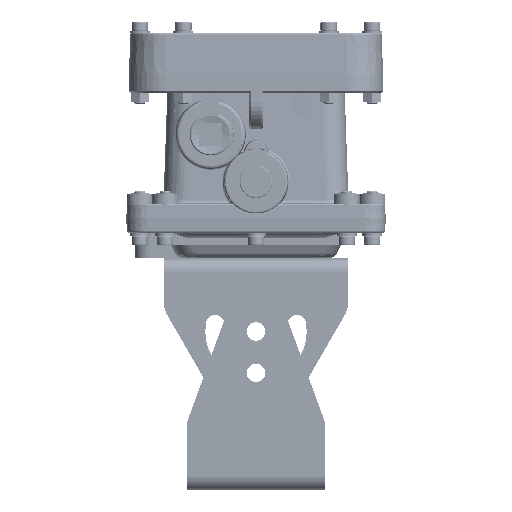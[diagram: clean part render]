
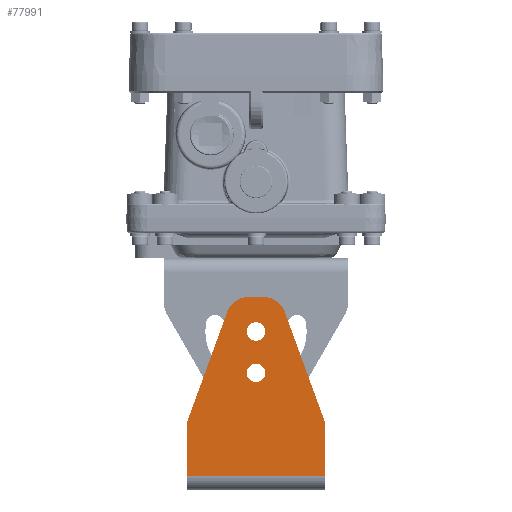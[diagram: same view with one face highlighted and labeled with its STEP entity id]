
A CAD part, left-side view. The second image highlights one B-rep face of the part: STEP entity #77991.
In plain terms, the highlighted planar face has unit normal (-1, 0, 0).
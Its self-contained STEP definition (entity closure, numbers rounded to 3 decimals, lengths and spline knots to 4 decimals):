
#903 = AXIS2_PLACEMENT_3D ( 'NONE', #22704, #116218, #104714 ) ;
#997 = ORIENTED_EDGE ( 'NONE', *, *, #6484, .T. ) ;
#2646 = CARTESIAN_POINT ( 'NONE',  ( -5.8875, 4., -1.5 ) ) ;
#5719 = DIRECTION ( 'NONE',  ( 1., 0., 0. ) ) ;
#6310 = CIRCLE ( 'NONE', #57761, 0.5 ) ;
#6484 = EDGE_CURVE ( 'NONE', #94970, #90161, #90772, .T. ) ;
#6778 = ORIENTED_EDGE ( 'NONE', *, *, #67262, .T. ) ;
#7060 = CIRCLE ( 'NONE', #136921, 0.2 ) ;
#7193 = LINE ( 'NONE', #69088, #87952 ) ;
#8302 = ORIENTED_EDGE ( 'NONE', *, *, #101985, .T. ) ;
#11052 = CARTESIAN_POINT ( 'NONE',  ( -5.8875, 3.25, -0.2 ) ) ;
#12844 = DIRECTION ( 'NONE',  ( -1., 0., 0. ) ) ;
#13579 = CARTESIAN_POINT ( 'NONE',  ( -5.8875, 1.1817, 1. ) ) ;
#14702 = CARTESIAN_POINT ( 'NONE',  ( -5.8875, 1.2698, -1.5 ) ) ;
#14851 = VERTEX_POINT ( 'NONE', #47326 ) ;
#17229 = EDGE_CURVE ( 'NONE', #60779, #50627, #7060, .T. ) ;
#17262 = CARTESIAN_POINT ( 'NONE',  ( -5.8875, 3.25, 0. ) ) ;
#18066 = EDGE_CURVE ( 'NONE', #82313, #113037, #90210, .T. ) ;
#19301 = VECTOR ( 'NONE', #126617, 39.3701 ) ;
#20042 = LINE ( 'NONE', #65284, #19301 ) ;
#20335 = DIRECTION ( 'NONE',  ( 0., -1., 0. ) ) ;
#20889 = CARTESIAN_POINT ( 'NONE',  ( -5.8875, 2.35, 0. ) ) ;
#22704 = CARTESIAN_POINT ( 'NONE',  ( -5.8875, 2.35, 0. ) ) ;
#23680 = VECTOR ( 'NONE', #130754, 39.3701 ) ;
#24168 = FACE_BOUND ( 'NONE', #100458, .T. ) ;
#24301 = CARTESIAN_POINT ( 'NONE',  ( -5.8875, 3.5, 0.1562 ) ) ;
#25454 = LINE ( 'NONE', #107449, #150981 ) ;
#26224 = EDGE_CURVE ( 'NONE', #35387, #14851, #6310, .T. ) ;
#28459 = DIRECTION ( 'NONE',  ( 0., -0.94, -0.342 ) ) ;
#29532 = EDGE_CURVE ( 'NONE', #90161, #82313, #7193, .T. ) ;
#29960 = AXIS2_PLACEMENT_3D ( 'NONE', #13579, #12844, #45797 ) ;
#31214 = ORIENTED_EDGE ( 'NONE', *, *, #29532, .T. ) ;
#32393 = CARTESIAN_POINT ( 'NONE',  ( -5.8875, 0.125, 1.5 ) ) ;
#35387 = VERTEX_POINT ( 'NONE', #78842 ) ;
#37111 = CIRCLE ( 'NONE', #39625, 0.2 ) ;
#39625 = AXIS2_PLACEMENT_3D ( 'NONE', #17262, #5719, #113061 ) ;
#41114 = ORIENTED_EDGE ( 'NONE', *, *, #54872, .T. ) ;
#42328 = CARTESIAN_POINT ( 'NONE',  ( -5.8875, 4., 0.1562 ) ) ;
#44547 = DIRECTION ( 'NONE',  ( 0., 0., -1. ) ) ;
#44826 = CARTESIAN_POINT ( 'NONE',  ( -5.8875, 3.671, -0.626 ) ) ;
#44858 = DIRECTION ( 'NONE',  ( 0., -1., 0. ) ) ;
#45797 = DIRECTION ( 'NONE',  ( 0., 1., 0. ) ) ;
#46385 = DIRECTION ( 'NONE',  ( 1., 0., 0. ) ) ;
#46865 = EDGE_LOOP ( 'NONE', ( #41114, #6778 ) ) ;
#47155 = FACE_OUTER_BOUND ( 'NONE', #69746, .T. ) ;
#47326 = CARTESIAN_POINT ( 'NONE',  ( -5.8875, 1.1817, -1.5 ) ) ;
#47506 = CARTESIAN_POINT ( 'NONE',  ( -5.8875, 3.25, 0.2 ) ) ;
#47620 = CARTESIAN_POINT ( 'NONE',  ( -5.8875, 0.125, 1.5 ) ) ;
#50541 = CARTESIAN_POINT ( 'NONE',  ( -5.8875, 3.25, 0. ) ) ;
#50627 = VERTEX_POINT ( 'NONE', #47506 ) ;
#50671 = VERTEX_POINT ( 'NONE', #108781 ) ;
#50940 = EDGE_CURVE ( 'NONE', #102769, #99332, #74099, .T. ) ;
#51062 = DIRECTION ( 'NONE',  ( -1., 0., 0. ) ) ;
#53390 = ORIENTED_EDGE ( 'NONE', *, *, #57998, .F. ) ;
#54872 = EDGE_CURVE ( 'NONE', #50671, #144304, #106202, .T. ) ;
#55234 = ORIENTED_EDGE ( 'NONE', *, *, #123890, .T. ) ;
#57099 = PLANE ( 'NONE',  #57522 ) ;
#57151 = DIRECTION ( 'NONE',  ( -1., 0., 0. ) ) ;
#57522 = AXIS2_PLACEMENT_3D ( 'NONE', #57864, #46385, #44858 ) ;
#57761 = AXIS2_PLACEMENT_3D ( 'NONE', #120904, #51062, #123926 ) ;
#57864 = CARTESIAN_POINT ( 'NONE',  ( -5.8875, 4., 1.5 ) ) ;
#57998 = EDGE_CURVE ( 'NONE', #102769, #109481, #25454, .T. ) ;
#60779 = VERTEX_POINT ( 'NONE', #11052 ) ;
#60930 = CARTESIAN_POINT ( 'NONE',  ( -5.8875, 1.3527, 1.4698 ) ) ;
#65284 = CARTESIAN_POINT ( 'NONE',  ( -5.8875, 4., 0.5063 ) ) ;
#67262 = EDGE_CURVE ( 'NONE', #144304, #50671, #84884, .T. ) ;
#67439 = CARTESIAN_POINT ( 'NONE',  ( -5.8875, 3.671, 0.626 ) ) ;
#68707 = DIRECTION ( 'NONE',  ( 0., 1., 0. ) ) ;
#68800 = DIRECTION ( 'NONE',  ( -1., 0., 0. ) ) ;
#69088 = CARTESIAN_POINT ( 'NONE',  ( -5.8875, 4., 1.5 ) ) ;
#69746 = EDGE_LOOP ( 'NONE', ( #53390, #101554, #8302, #997, #31214, #89342, #55234, #73385, #91762, #84820 ) ) ;
#71106 = DIRECTION ( 'NONE',  ( 0., 1., 0. ) ) ;
#72952 = LINE ( 'NONE', #47620, #138133 ) ;
#73385 = ORIENTED_EDGE ( 'NONE', *, *, #26224, .T. ) ;
#74099 = CIRCLE ( 'NONE', #29960, 0.5 ) ;
#74743 = LINE ( 'NONE', #2646, #23680 ) ;
#77991 = ADVANCED_FACE ( 'NONE', ( #24168, #91684, #47155 ), #57099, .F. ) ;
#78842 = CARTESIAN_POINT ( 'NONE',  ( -5.8875, 1.3527, -1.4698 ) ) ;
#82313 = VERTEX_POINT ( 'NONE', #127589 ) ;
#84484 = LINE ( 'NONE', #14702, #109952 ) ;
#84820 = ORIENTED_EDGE ( 'NONE', *, *, #111825, .F. ) ;
#84884 = CIRCLE ( 'NONE', #109233, 0.2 ) ;
#87952 = VECTOR ( 'NONE', #44547, 39.3701 ) ;
#89342 = ORIENTED_EDGE ( 'NONE', *, *, #18066, .T. ) ;
#90161 = VERTEX_POINT ( 'NONE', #42328 ) ;
#90210 = CIRCLE ( 'NONE', #148953, 0.5 ) ;
#90772 = CIRCLE ( 'NONE', #144597, 0.5 ) ;
#91684 = FACE_BOUND ( 'NONE', #46865, .T. ) ;
#91762 = ORIENTED_EDGE ( 'NONE', *, *, #99358, .T. ) ;
#94442 = DIRECTION ( 'NONE',  ( 0., 0., -1. ) ) ;
#94970 = VERTEX_POINT ( 'NONE', #67439 ) ;
#98609 = DIRECTION ( 'NONE',  ( 1., 0., 0. ) ) ;
#99332 = VERTEX_POINT ( 'NONE', #60930 ) ;
#99358 = EDGE_CURVE ( 'NONE', #14851, #147197, #74743, .T. ) ;
#99512 = CARTESIAN_POINT ( 'NONE',  ( -5.8875, 2.35, 0.2 ) ) ;
#100458 = EDGE_LOOP ( 'NONE', ( #146613, #118174 ) ) ;
#100698 = CARTESIAN_POINT ( 'NONE',  ( -5.8875, 1.1817, 1.5 ) ) ;
#101554 = ORIENTED_EDGE ( 'NONE', *, *, #50940, .T. ) ;
#101985 = EDGE_CURVE ( 'NONE', #99332, #94970, #20042, .T. ) ;
#102769 = VERTEX_POINT ( 'NONE', #100698 ) ;
#104714 = DIRECTION ( 'NONE',  ( 0., 0., -1. ) ) ;
#106202 = CIRCLE ( 'NONE', #903, 0.2 ) ;
#106558 = DIRECTION ( 'NONE',  ( 0., 0., -1. ) ) ;
#107449 = CARTESIAN_POINT ( 'NONE',  ( -5.8875, 4., 1.5 ) ) ;
#108095 = DIRECTION ( 'NONE',  ( 1., 0., 0. ) ) ;
#108781 = CARTESIAN_POINT ( 'NONE',  ( -5.8875, 2.35, -0.2 ) ) ;
#109233 = AXIS2_PLACEMENT_3D ( 'NONE', #20889, #98609, #145378 ) ;
#109481 = VERTEX_POINT ( 'NONE', #32393 ) ;
#109925 = CARTESIAN_POINT ( 'NONE',  ( -5.8875, 0.125, -1.5 ) ) ;
#109952 = VECTOR ( 'NONE', #28459, 39.3701 ) ;
#111825 = EDGE_CURVE ( 'NONE', #109481, #147197, #72952, .T. ) ;
#113037 = VERTEX_POINT ( 'NONE', #44826 ) ;
#113061 = DIRECTION ( 'NONE',  ( 0., 0., -1. ) ) ;
#116218 = DIRECTION ( 'NONE',  ( 1., 0., 0. ) ) ;
#118174 = ORIENTED_EDGE ( 'NONE', *, *, #141145, .T. ) ;
#120904 = CARTESIAN_POINT ( 'NONE',  ( -5.8875, 1.1817, -1. ) ) ;
#123890 = EDGE_CURVE ( 'NONE', #113037, #35387, #84484, .T. ) ;
#123926 = DIRECTION ( 'NONE',  ( 0., 1., 0. ) ) ;
#126617 = DIRECTION ( 'NONE',  ( 0., 0.94, -0.342 ) ) ;
#127589 = CARTESIAN_POINT ( 'NONE',  ( -5.8875, 4., -0.1562 ) ) ;
#130754 = DIRECTION ( 'NONE',  ( 0., -1., 0. ) ) ;
#136921 = AXIS2_PLACEMENT_3D ( 'NONE', #50541, #108095, #106558 ) ;
#138133 = VECTOR ( 'NONE', #94442, 39.3701 ) ;
#141145 = EDGE_CURVE ( 'NONE', #50627, #60779, #37111, .T. ) ;
#141346 = CARTESIAN_POINT ( 'NONE',  ( -5.8875, 3.5, -0.1562 ) ) ;
#144304 = VERTEX_POINT ( 'NONE', #99512 ) ;
#144597 = AXIS2_PLACEMENT_3D ( 'NONE', #24301, #68800, #71106 ) ;
#145378 = DIRECTION ( 'NONE',  ( 0., 0., -1. ) ) ;
#146613 = ORIENTED_EDGE ( 'NONE', *, *, #17229, .T. ) ;
#147197 = VERTEX_POINT ( 'NONE', #109925 ) ;
#148953 = AXIS2_PLACEMENT_3D ( 'NONE', #141346, #57151, #68707 ) ;
#150981 = VECTOR ( 'NONE', #20335, 39.3701 ) ;
